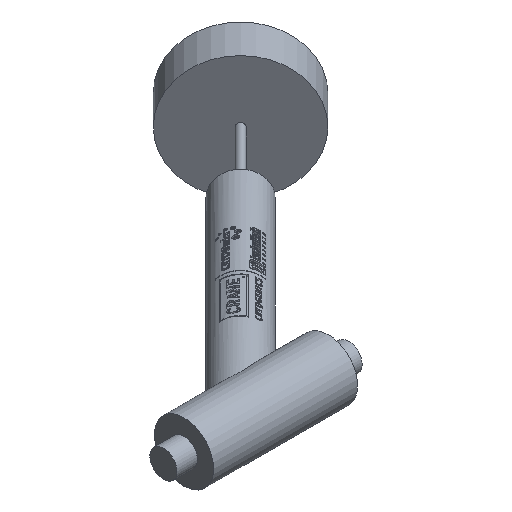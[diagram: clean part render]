
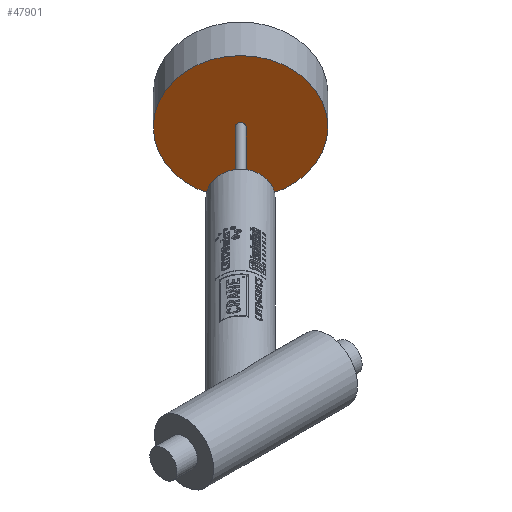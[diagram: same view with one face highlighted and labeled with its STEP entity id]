
A CAD part, isometric view. The second image highlights one B-rep face of the part: STEP entity #47901.
In plain terms, the highlighted planar face has unit normal (-0.707, -0.707, 0).
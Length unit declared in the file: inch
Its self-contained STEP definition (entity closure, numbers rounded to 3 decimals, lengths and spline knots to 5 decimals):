
#2415 = CIRCLE ( 'NONE', #11904, 3. ) ;
#5083 = CARTESIAN_POINT ( 'NONE',  ( 9.42527, 14.41791, 0. ) ) ;
#6419 = AXIS2_PLACEMENT_3D ( 'NONE', #32172, #47255, #47977 ) ;
#8461 = ORIENTED_EDGE ( 'NONE', *, *, #43950, .F. ) ;
#8735 = ORIENTED_EDGE ( 'NONE', *, *, #33050, .T. ) ;
#8788 = CIRCLE ( 'NONE', #6419, 0.1875 ) ;
#8974 = CARTESIAN_POINT ( 'NONE',  ( 11.54659, 12.29659, -3. ) ) ;
#11904 = AXIS2_PLACEMENT_3D ( 'NONE', #24422, #28145, #42973 ) ;
#13649 = CARTESIAN_POINT ( 'NONE',  ( 11.54659, 12.29659, -0.1875 ) ) ;
#17099 = EDGE_LOOP ( 'NONE', ( #8461 ) ) ;
#20157 = DIRECTION ( 'NONE',  ( 0.707, 0.707, 0. ) ) ;
#23605 = PLANE ( 'NONE',  #38986 ) ;
#24422 = CARTESIAN_POINT ( 'NONE',  ( 11.54659, 12.29659, 0. ) ) ;
#28145 = DIRECTION ( 'NONE',  ( -0.707, -0.707, 0. ) ) ;
#30863 = EDGE_LOOP ( 'NONE', ( #8735 ) ) ;
#32172 = CARTESIAN_POINT ( 'NONE',  ( 11.54659, 12.29659, 0. ) ) ;
#33050 = EDGE_CURVE ( 'NONE', #46774, #46774, #2415, .T. ) ;
#34266 = FACE_BOUND ( 'NONE', #17099, .T. ) ;
#34747 = FACE_OUTER_BOUND ( 'NONE', #30863, .T. ) ;
#38986 = AXIS2_PLACEMENT_3D ( 'NONE', #5083, #20157, #46582 ) ;
#42973 = DIRECTION ( 'NONE',  ( 0., 0., -1. ) ) ;
#43950 = EDGE_CURVE ( 'NONE', #44526, #44526, #8788, .T. ) ;
#44526 = VERTEX_POINT ( 'NONE', #13649 ) ;
#46582 = DIRECTION ( 'NONE',  ( 0., 0., 1. ) ) ;
#46774 = VERTEX_POINT ( 'NONE', #8974 ) ;
#47255 = DIRECTION ( 'NONE',  ( -0.707, -0.707, 0. ) ) ;
#47901 = ADVANCED_FACE ( 'NONE', ( #34266, #34747 ), #23605, .F. ) ;
#47977 = DIRECTION ( 'NONE',  ( 0., 0., -1. ) ) ;
